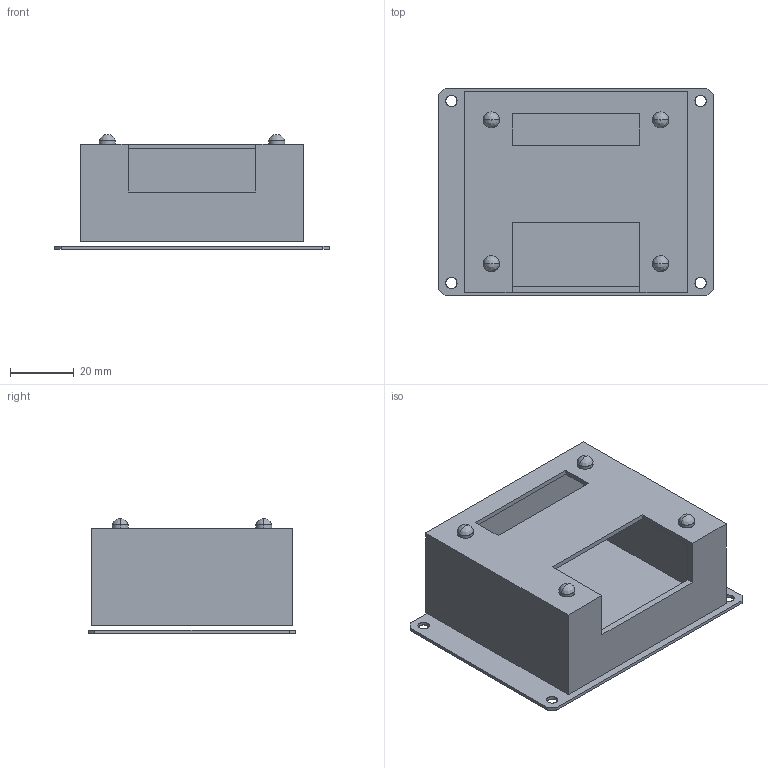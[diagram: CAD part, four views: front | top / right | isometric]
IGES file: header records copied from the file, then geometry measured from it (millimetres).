
Start section: SolidWorks IGES file using analytic representation for surfaces
Bounding box: 86 x 65 x 36 mm (x, y, z)
Surface area: 32672.7 mm2 (no closed solid volume)
Topology: 0 solids, 0 shells, 65 faces, 924 edges, 924 vertices
Faces by surface type: bspline 49, revolution 16
